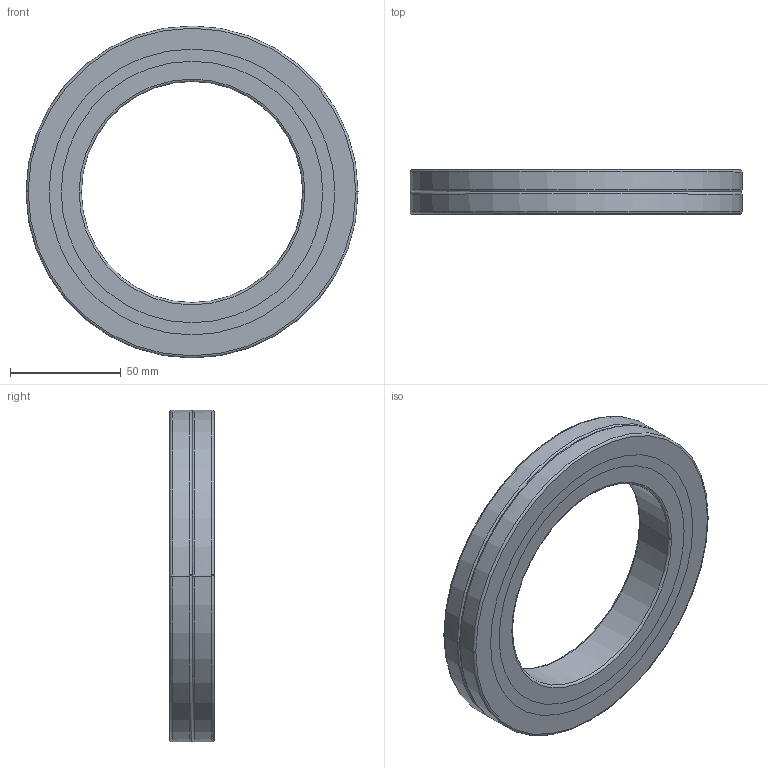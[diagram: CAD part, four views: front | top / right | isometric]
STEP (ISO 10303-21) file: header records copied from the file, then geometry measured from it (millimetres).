
FILE_DESCRIPTION(('no description'),'unknown implementation level');
FILE_NAME('CRBA10020_13.stp',' ',('HIWIN GmbH'),('CADClick - KiM GmbH - www.kimweb.de'),'unknown preprocess','ACIS','unknown authorization');
FILE_SCHEMA(('automotive_design'));
Length unit declared in the file: millimetre
Products named in the file (5): CRBA10020_1; CRBA10020_2; CRBA10020_3; CRBA10020_4; CRBA10020
Bounding box: 150 x 20 x 150 mm (x, y, z)
Volume: 161612.7 mm3; surface area: 66313.8 mm2
Topology: 5 solids, 5 shells, 54 faces, 120 edges, 76 vertices
Faces by surface type: torus 24, cylinder 20, plane 10
Entity records: 3096 total; most frequent: DIRECTION 338, STYLED_ITEM 255, PRESENTATION_STYLE_ASSIGNMENT 255, CARTESIAN_POINT 255, COLOUR_RGB 255, ORIENTED_EDGE 240, AXIS2_PLACEMENT_3D 159, EDGE_CURVE 120
